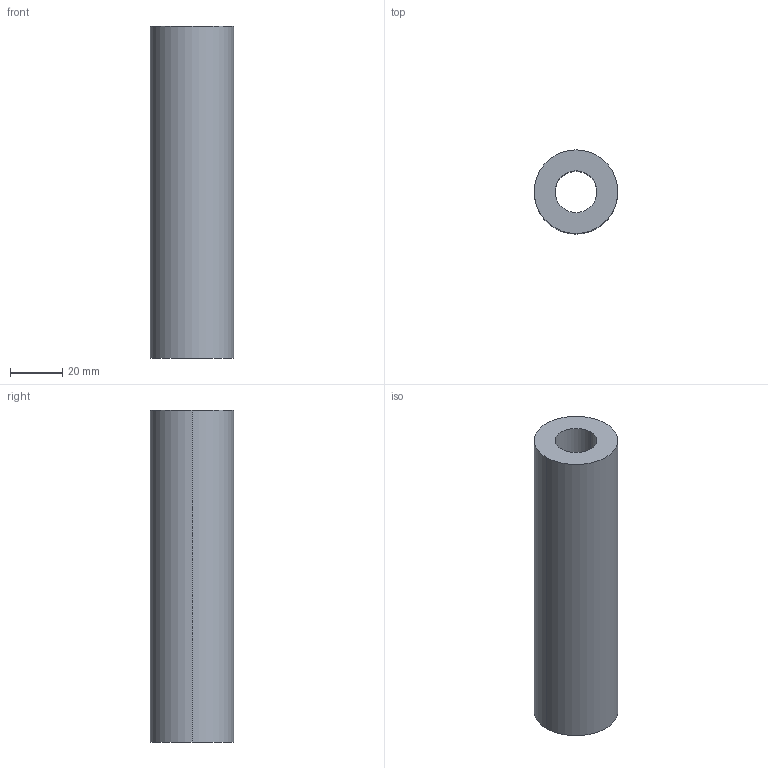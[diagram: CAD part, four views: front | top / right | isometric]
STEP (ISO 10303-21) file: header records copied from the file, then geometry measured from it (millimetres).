
FILE_DESCRIPTION (( 'STEP AP214' ), '1' );
FILE_NAME ('BRR-32X127.STEP', '2020-07-21T09:01:16', ( 'August' ), ( '' ), 'SwSTEP 2.0', 'SolidWorks 2018', '' );
FILE_SCHEMA (( 'AUTOMOTIVE_DESIGN' ));
Length unit declared in the file: millimetre
Products named in the file (1): BRR-32X127
Bounding box: 32 x 32 x 127 mm (x, y, z)
Volume: 76604.6 mm3; surface area: 20357.5 mm2
Topology: 1 solids, 1 shells, 6 faces, 12 edges, 8 vertices
Faces by surface type: cylinder 4, plane 2
Entity records: 202 total; most frequent: DIRECTION 34, CARTESIAN_POINT 27, ORIENTED_EDGE 24, AXIS2_PLACEMENT_3D 15, EDGE_CURVE 12, EDGE_LOOP 8, CIRCLE 8, VERTEX_POINT 8
